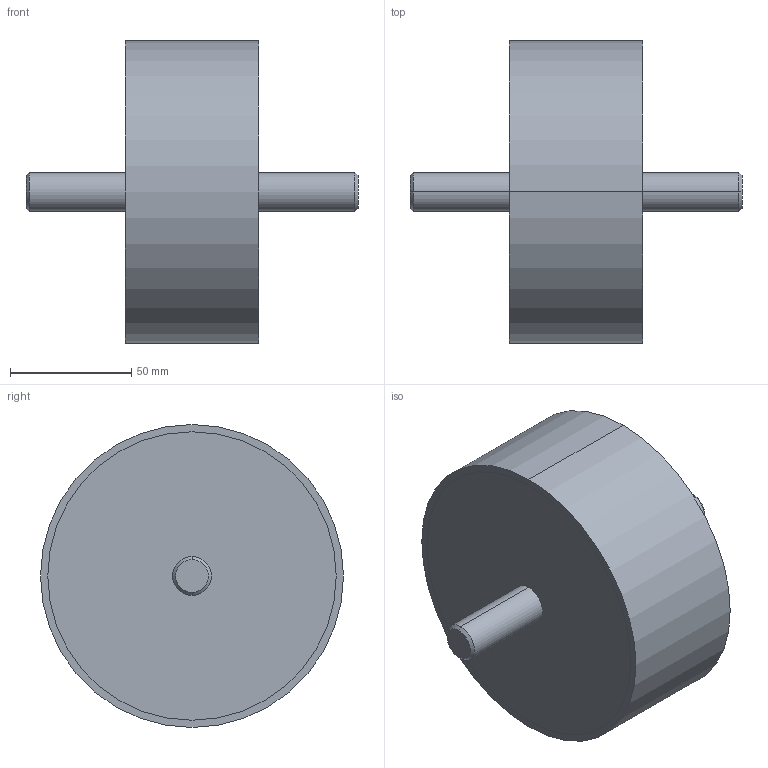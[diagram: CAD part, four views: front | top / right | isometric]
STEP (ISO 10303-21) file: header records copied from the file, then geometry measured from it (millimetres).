
FILE_DESCRIPTION (( 'STEP AP214' ), '1' );
FILE_NAME ('351-125-55-M16-SS-40.step', '2025-07-23T10:03:11', ( '' ), ( '' ), 'SwSTEP 2.0', 'SolidWorks 2022', '' );
FILE_SCHEMA (( 'AUTOMOTIVE_DESIGN' ));
Length unit declared in the file: millimetre
Products named in the file (1): 351-125-55-M16-SS-40
Bounding box: 137 x 125 x 125 mm (x, y, z)
Volume: 691145.8 mm3; surface area: 50194.7 mm2
Topology: 1 solids, 1 shells, 20 faces, 38 edges, 24 vertices
Faces by surface type: cylinder 10, plane 6, cone 4
Entity records: 636 total; most frequent: DIRECTION 104, CARTESIAN_POINT 83, ORIENTED_EDGE 76, AXIS2_PLACEMENT_3D 45, EDGE_CURVE 38, EDGE_LOOP 24, CIRCLE 24, VERTEX_POINT 24
